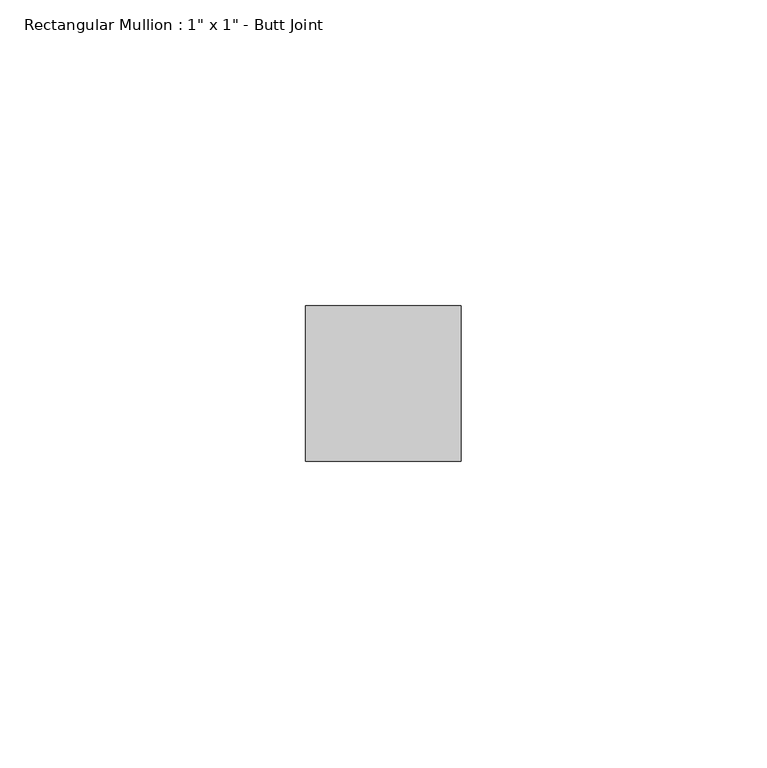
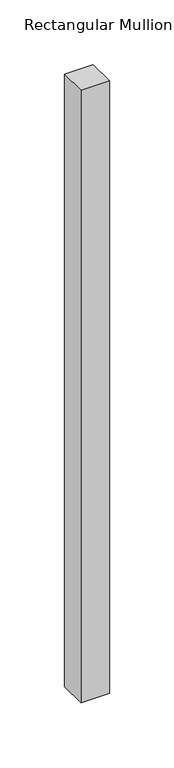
"""IFC4 building model written with IfcOpenShell, lengths in millimetres: member geometry."""

from ifc_helpers import new_model, si_unit, frame, origin, place, context, project, spatial, polyline, outline, extrude, source, transform, mapped, element, save


def member_1e778135(model_context):
    return source(origin(), model_context, "Body", "SweptSolid", [
        extrude(outline(polyline([(12.7, 12.7), (12.7, -12.7), (-12.7, -12.7), (-12.7, 12.7), (12.7, 12.7)])), frame((0.0, 0.0, -578.5010646), z_axis=(0.0, 0.0, 1.0), x_axis=(1.0, 0.0, 0.0)), (0.0, 0.0, 1.0), 578.5010646),
    ])


if __name__ == "__main__":
    model = new_model("IFC4")
    model_context = context("Model", 3, world=origin())
    ifc_project = project(units=[si_unit("LENGTHUNIT", "METRE", prefix="MILLI")], contexts=[model_context])
    site = spatial("IfcSite", under=ifc_project)
    building = spatial("IfcBuilding", under=site)
    placement = place(None, origin())
    member_shape = member_1e778135(model_context)
    element("IfcMember", 1, ObjectType="Rectangular Mullion : 1\" x 1\" - Butt Joint", at=placement, inside=building, context=model_context, shape_type="MappedRepresentation", body=[
        mapped(member_shape, transform((0.0, 0.0, 0.0), x_axis=(1.0, 0.0, 0.0), y_axis=(0.0, 1.0, 0.0), z_axis=(0.0, 0.0, 1.0))),
    ])
    save(model, "model.ifc")
